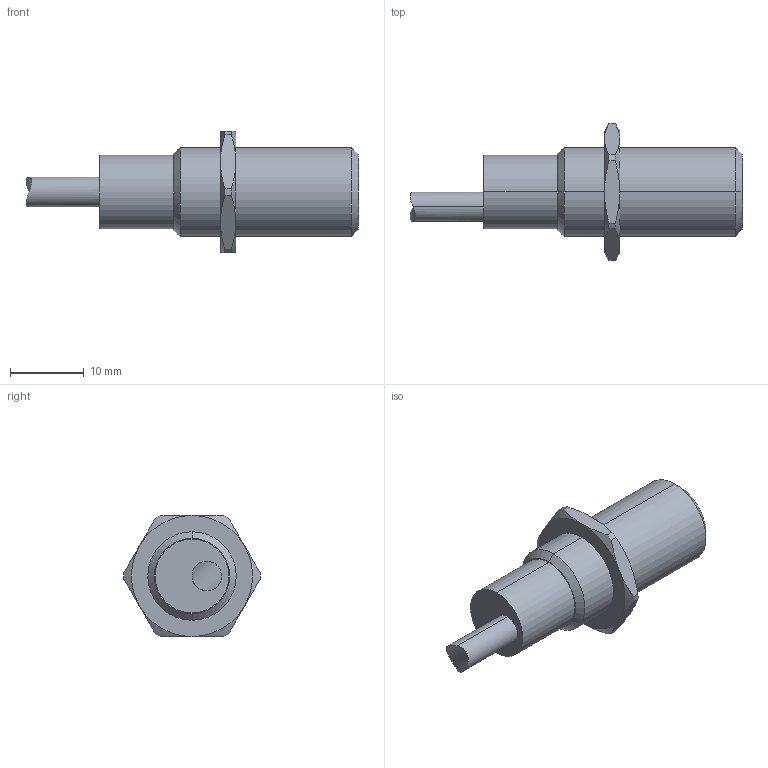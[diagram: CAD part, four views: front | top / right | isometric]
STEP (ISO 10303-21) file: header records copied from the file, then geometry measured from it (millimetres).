
FILE_DESCRIPTION (( 'STEP AP214' ), '1' );
FILE_NAME ('DPI M12C.STEP', '2016-12-07T16:25:44', ( 'Hubert' ), ( '' ), 'SwSTEP 2.0', 'SolidWorks 2014', '' );
FILE_SCHEMA (( 'AUTOMOTIVE_DESIGN' ));
Length unit declared in the file: millimetre
Products named in the file (3): DPI M12C; 1_1_4; 2_1_4
Assembly tree (2 placements, depth 2):
  DPI M12C
    1_1_4
    2_1_4
Bounding box: 45 x 18.47 x 16.43 mm (x, y, z)
Volume: 3979.1 mm3; surface area: 1996.7 mm2
Topology: 2 solids, 2 shells, 47 faces, 107 edges, 66 vertices
Faces by surface type: cone 20, cylinder 16, plane 11
Entity records: 1565 total; most frequent: CARTESIAN_POINT 403, DIRECTION 237, ORIENTED_EDGE 214, EDGE_CURVE 107, AXIS2_PLACEMENT_3D 104, VERTEX_POINT 66, CIRCLE 52, EDGE_LOOP 51
